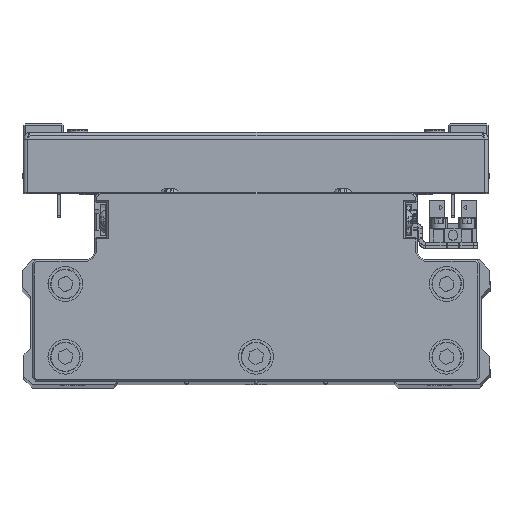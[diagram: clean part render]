
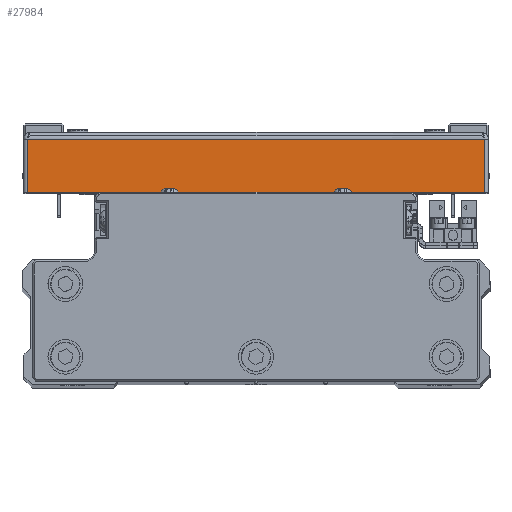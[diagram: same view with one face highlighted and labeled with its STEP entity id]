
A CAD part, top view. The second image highlights one B-rep face of the part: STEP entity #27984.
In plain terms, the highlighted planar face has unit normal (0, 0, 1) as drawn and (1, 0, 0) by its records, which use the part's own axes.
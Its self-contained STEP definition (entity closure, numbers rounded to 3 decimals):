
#435 = AXIS2_PLACEMENT_3D ( 'NONE', #10749, #24140, #37582 ) ;
#804 = ORIENTED_EDGE ( 'NONE', *, *, #20399, .F. ) ;
#3451 = LINE ( 'NONE', #16843, #39577 ) ;
#3901 = DIRECTION ( 'NONE',  ( 0., 1., 0. ) ) ;
#3975 = CARTESIAN_POINT ( 'NONE',  ( 75., 1., 65.929 ) ) ;
#6079 = VECTOR ( 'NONE', #41512, 1000. ) ;
#9509 = ORIENTED_EDGE ( 'NONE', *, *, #40683, .T. ) ;
#9576 = LINE ( 'NONE', #22984, #20813 ) ;
#10749 = CARTESIAN_POINT ( 'NONE',  ( 75., 0., 0. ) ) ;
#12716 = ORIENTED_EDGE ( 'NONE', *, *, #16526, .F. ) ;
#13418 = VERTEX_POINT ( 'NONE', #19659 ) ;
#14668 = LINE ( 'NONE', #28066, #6079 ) ;
#15531 = ORIENTED_EDGE ( 'NONE', *, *, #28469, .T. ) ;
#16526 = EDGE_CURVE ( 'NONE', #13418, #17516, #3451, .T. ) ;
#16843 = CARTESIAN_POINT ( 'NONE',  ( 75., 1., 67. ) ) ;
#17516 = VERTEX_POINT ( 'NONE', #3975 ) ;
#19149 = EDGE_LOOP ( 'NONE', ( #12716, #9509, #15531, #804 ) ) ;
#19659 = CARTESIAN_POINT ( 'NONE',  ( 75., 1., -65.929 ) ) ;
#20399 = EDGE_CURVE ( 'NONE', #17516, #36978, #9576, .T. ) ;
#20571 = LINE ( 'NONE', #33981, #23054 ) ;
#20813 = VECTOR ( 'NONE', #36415, 1000. ) ;
#22984 = CARTESIAN_POINT ( 'NONE',  ( 75., 0., 65.929 ) ) ;
#23054 = VECTOR ( 'NONE', #3901, 1000. ) ;
#24140 = DIRECTION ( 'NONE',  ( -1., 0., 0. ) ) ;
#27456 = FACE_OUTER_BOUND ( 'NONE', #19149, .T. ) ;
#27984 = ADVANCED_FACE ( 'NONE', ( #27456 ), #40903, .F. ) ;
#28066 = CARTESIAN_POINT ( 'NONE',  ( 75., 16.5, 0. ) ) ;
#28469 = EDGE_CURVE ( 'NONE', #37088, #36978, #14668, .T. ) ;
#30231 = DIRECTION ( 'NONE',  ( 0., 0., 1. ) ) ;
#33981 = CARTESIAN_POINT ( 'NONE',  ( 75., 0., -65.929 ) ) ;
#36415 = DIRECTION ( 'NONE',  ( 0., 1., 0. ) ) ;
#36978 = VERTEX_POINT ( 'NONE', #39034 ) ;
#37088 = VERTEX_POINT ( 'NONE', #43213 ) ;
#37582 = DIRECTION ( 'NONE',  ( 0., -1., 0. ) ) ;
#39034 = CARTESIAN_POINT ( 'NONE',  ( 75., 16.5, 65.929 ) ) ;
#39577 = VECTOR ( 'NONE', #30231, 1000. ) ;
#40683 = EDGE_CURVE ( 'NONE', #13418, #37088, #20571, .T. ) ;
#40903 = PLANE ( 'NONE',  #435 ) ;
#41512 = DIRECTION ( 'NONE',  ( 0., 0., 1. ) ) ;
#43213 = CARTESIAN_POINT ( 'NONE',  ( 75., 16.5, -65.929 ) ) ;
